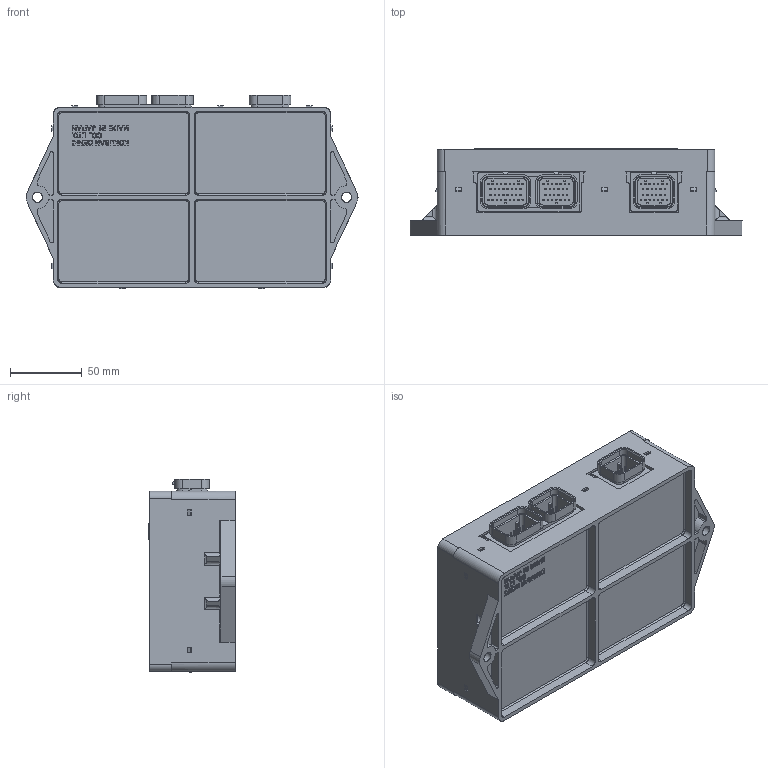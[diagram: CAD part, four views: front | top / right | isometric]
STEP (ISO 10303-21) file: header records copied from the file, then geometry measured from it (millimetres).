
FILE_DESCRIPTION((''),'2;1');
FILE_NAME('DRIVEECU_164000-10010-1','2015-07-09T',('IB46307'),(''),'PRO/ENGINEER BY PARAMETRIC TECHNOLOGY CORPORATION, 2007450','PRO/ENGINEER BY PARAMETRIC TECHNOLOGY CORPORATION, 2007450','');
FILE_SCHEMA(('CONFIG_CONTROL_DESIGN'));
Products named in the file (1): DRIVEECU_164000-10010-1
Bounding box: 232 x 60.5 x 135.4 mm (x, y, z)
Surface area: 210372.8 mm2 (no closed solid volume)
Topology: 0 solids, 95 shells, 2174 faces, 6670 edges, 4490 vertices
Faces by surface type: plane 1228, cylinder 459, extrusion 429, torus 20, bspline 20, cone 12, sphere 6
Entity records: 82810 total; most frequent: CARTESIAN_POINT 27766, ORIENTED_EDGE 11478, DIRECTION 9250, EDGE_CURVE 6664, VERTEX_POINT 4490, VECTOR 4228, LINE 3799, AXIS2_PLACEMENT_3D 2511
